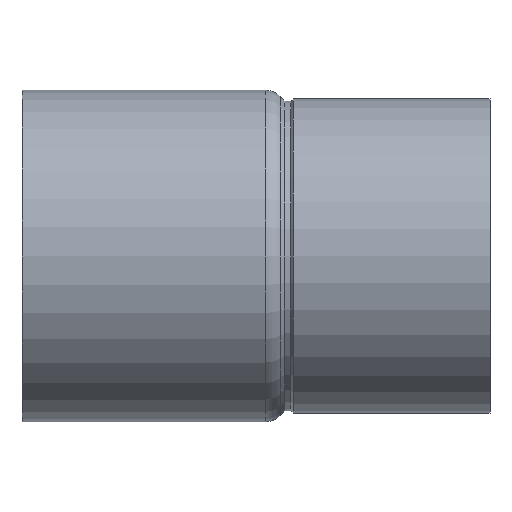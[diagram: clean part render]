
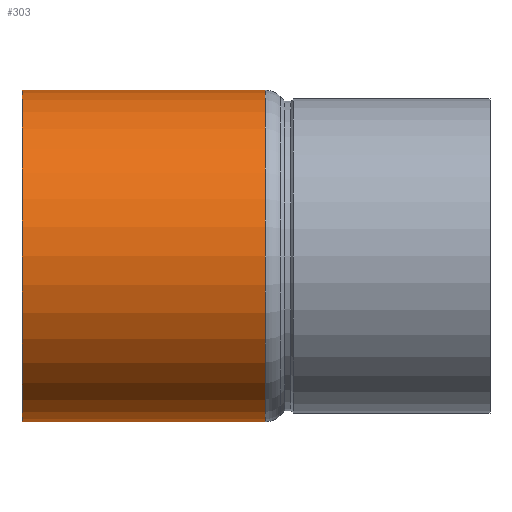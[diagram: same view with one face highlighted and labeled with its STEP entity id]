
A CAD part, front view. The second image highlights one B-rep face of the part: STEP entity #303.
In plain terms, the highlighted cylindrical face has radius 16 mm (diameter 32 mm), a full revolution.
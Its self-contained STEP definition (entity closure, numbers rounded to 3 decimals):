
#269=CARTESIAN_POINT('',(0.0,16.0,0.0));
#270=VERTEX_POINT('',#269);
#271=CARTESIAN_POINT('',(0.0,0.0,0.0));
#272=DIRECTION('',(1.0,0.0,0.0));
#273=DIRECTION('',(0.0,1.0,0.0));
#274=AXIS2_PLACEMENT_3D('',#271,#272,#273);
#275=CIRCLE('',#274,16.0);
#276=EDGE_CURVE('',#270,#270,#275,.T.);
#284=CARTESIAN_POINT('',(11.75,0.0,0.0));
#285=DIRECTION('',(1.0,0.0,0.0));
#286=DIRECTION('',(0.0,1.0,0.0));
#287=AXIS2_PLACEMENT_3D('',#284,#285,#286);
#288=CYLINDRICAL_SURFACE('',#287,16.0);
#289=CARTESIAN_POINT('',(23.5,16.,0.0));
#290=VERTEX_POINT('',#289);
#291=CARTESIAN_POINT('',(23.5,0.0,0.0));
#292=DIRECTION('',(1.0,0.0,0.0));
#293=DIRECTION('',(0.0,1.0,0.0));
#294=AXIS2_PLACEMENT_3D('',#291,#292,#293);
#295=CIRCLE('',#294,16.);
#296=EDGE_CURVE('',#290,#290,#295,.T.);
#297=ORIENTED_EDGE('',*,*,#296,.F.);
#298=EDGE_LOOP('',(#297));
#299=FACE_OUTER_BOUND('',#298,.T.);
#300=ORIENTED_EDGE('',*,*,#276,.T.);
#301=EDGE_LOOP('',(#300));
#302=FACE_BOUND('',#301,.T.);
#303=ADVANCED_FACE('',(#299,#302),#288,.T.);
